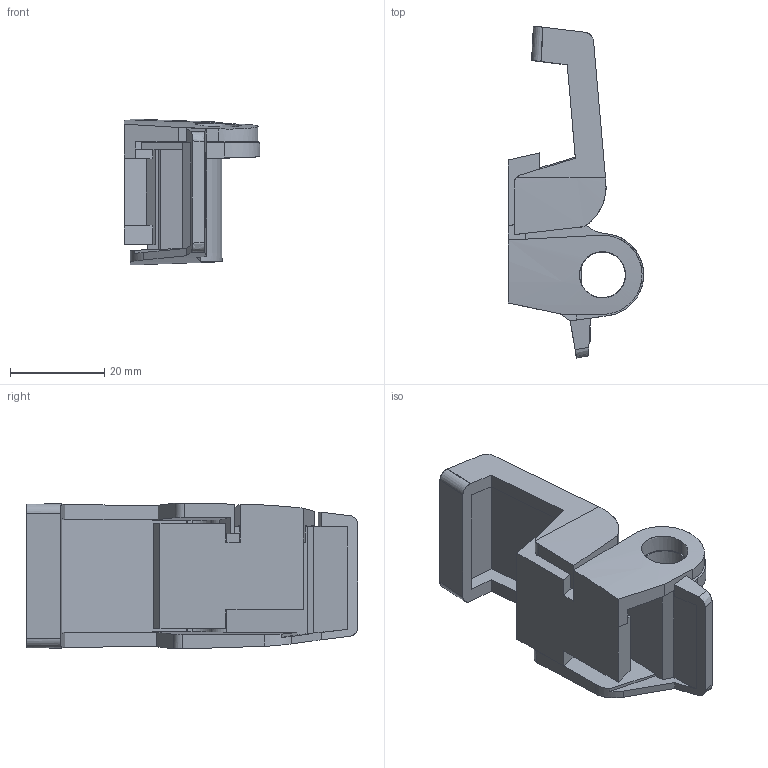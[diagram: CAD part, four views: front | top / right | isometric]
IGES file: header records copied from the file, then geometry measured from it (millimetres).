
Start section: SolidWorks IGES file using analytic representation for surfaces
Global section: file name: G:\3DRAW\ARCA\3DCAM\IGS\Plastic latch.IGS; native system: SolidWorks 2007; preprocessor: SolidWorks 2007; author: KennethW; date: 070912.143640; units: millimetre
Bounding box: 28.76 x 70.48 x 31 mm (x, y, z)
Surface area: 10859 mm2 (no closed solid volume)
Topology: 0 solids, 0 shells, 162 faces, 1498 edges, 1498 vertices
Faces by surface type: bspline 123, revolution 39
